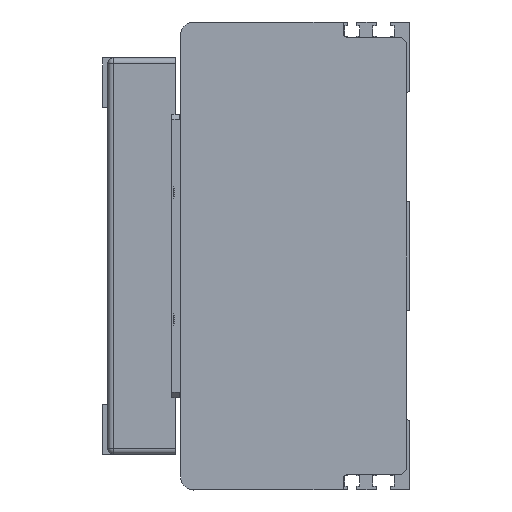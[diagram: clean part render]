
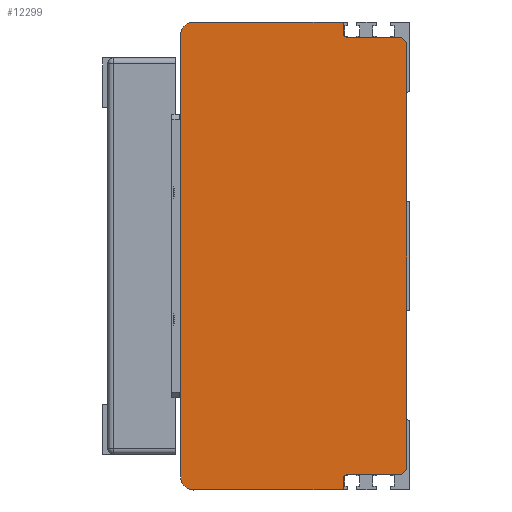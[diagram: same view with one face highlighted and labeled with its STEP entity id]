
A CAD part, left-side view. The second image highlights one B-rep face of the part: STEP entity #12299.
In plain terms, the highlighted planar face has unit normal (-1, 0, 0) as drawn and (0, 0, -1) by its records, which use the part's own axes.
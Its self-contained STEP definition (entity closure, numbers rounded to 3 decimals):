
#909=CIRCLE('',#13126,2.);
#910=CIRCLE('',#13127,5.);
#911=CIRCLE('',#13128,5.);
#912=CIRCLE('',#13129,2.);
#1204=FACE_OUTER_BOUND('',#1948,.T.);
#1948=EDGE_LOOP('',(#8328,#8329,#8330,#8331,#8332,#8333,#8334,#8335,#8336,
#8337,#8338,#8339,#8340,#8341));
#2829=LINE('',#17241,#4001);
#2830=LINE('',#17243,#4002);
#2831=LINE('',#17247,#4003);
#2832=LINE('',#17249,#4004);
#2833=LINE('',#17253,#4005);
#2834=LINE('',#17257,#4006);
#2835=LINE('',#17259,#4007);
#2836=LINE('',#17263,#4008);
#2837=LINE('',#17265,#4009);
#2838=LINE('',#17266,#4010);
#4001=VECTOR('',#14191,2.828);
#4002=VECTOR('',#14192,20.5);
#4003=VECTOR('',#14195,4.);
#4004=VECTOR('',#14196,57.5);
#4005=VECTOR('',#14199,170.);
#4006=VECTOR('',#14202,57.5);
#4007=VECTOR('',#14203,4.);
#4008=VECTOR('',#14206,20.5);
#4009=VECTOR('',#14207,2.828);
#4010=VECTOR('',#14208,164.);
#5193=VERTEX_POINT('',#17239);
#5194=VERTEX_POINT('',#17240);
#5195=VERTEX_POINT('',#17242);
#5196=VERTEX_POINT('',#17244);
#5197=VERTEX_POINT('',#17246);
#5198=VERTEX_POINT('',#17248);
#5199=VERTEX_POINT('',#17250);
#5200=VERTEX_POINT('',#17252);
#5201=VERTEX_POINT('',#17254);
#5202=VERTEX_POINT('',#17256);
#5203=VERTEX_POINT('',#17258);
#5204=VERTEX_POINT('',#17260);
#5205=VERTEX_POINT('',#17262);
#5206=VERTEX_POINT('',#17264);
#6450=EDGE_CURVE('',#5193,#5194,#2829,.T.);
#6451=EDGE_CURVE('',#5193,#5195,#2830,.T.);
#6452=EDGE_CURVE('',#5196,#5195,#909,.T.);
#6453=EDGE_CURVE('',#5196,#5197,#2831,.T.);
#6454=EDGE_CURVE('',#5197,#5198,#2832,.T.);
#6455=EDGE_CURVE('',#5198,#5199,#910,.T.);
#6456=EDGE_CURVE('',#5199,#5200,#2833,.T.);
#6457=EDGE_CURVE('',#5200,#5201,#911,.T.);
#6458=EDGE_CURVE('',#5201,#5202,#2834,.T.);
#6459=EDGE_CURVE('',#5202,#5203,#2835,.T.);
#6460=EDGE_CURVE('',#5204,#5203,#912,.T.);
#6461=EDGE_CURVE('',#5204,#5205,#2836,.T.);
#6462=EDGE_CURVE('',#5206,#5205,#2837,.T.);
#6463=EDGE_CURVE('',#5206,#5194,#2838,.T.);
#8328=ORIENTED_EDGE('',*,*,#6450,.F.);
#8329=ORIENTED_EDGE('',*,*,#6451,.T.);
#8330=ORIENTED_EDGE('',*,*,#6452,.F.);
#8331=ORIENTED_EDGE('',*,*,#6453,.T.);
#8332=ORIENTED_EDGE('',*,*,#6454,.T.);
#8333=ORIENTED_EDGE('',*,*,#6455,.T.);
#8334=ORIENTED_EDGE('',*,*,#6456,.T.);
#8335=ORIENTED_EDGE('',*,*,#6457,.T.);
#8336=ORIENTED_EDGE('',*,*,#6458,.T.);
#8337=ORIENTED_EDGE('',*,*,#6459,.T.);
#8338=ORIENTED_EDGE('',*,*,#6460,.F.);
#8339=ORIENTED_EDGE('',*,*,#6461,.T.);
#8340=ORIENTED_EDGE('',*,*,#6462,.F.);
#8341=ORIENTED_EDGE('',*,*,#6463,.T.);
#11866=PLANE('',#13125);
#12299=ADVANCED_FACE('',(#1204),#11866,.T.);
#13125=AXIS2_PLACEMENT_3D('',#17238,#14189,#14190);
#13126=AXIS2_PLACEMENT_3D('',#17245,#14193,#14194);
#13127=AXIS2_PLACEMENT_3D('',#17251,#14197,#14198);
#13128=AXIS2_PLACEMENT_3D('',#17255,#14200,#14201);
#13129=AXIS2_PLACEMENT_3D('',#17261,#14204,#14205);
#14189=DIRECTION('center_axis',(0.,0.,
-1.));
#14190=DIRECTION('ref_axis',(0.,-1.,0.));
#14191=DIRECTION('',(0.707,-0.707,0.));
#14192=DIRECTION('',(0.,1.,0.));
#14193=DIRECTION('center_axis',(0.,0.,
-1.));
#14194=DIRECTION('ref_axis',(0.707,0.707,0.));
#14195=DIRECTION('',(-1.,0.,0.));
#14196=DIRECTION('',(0.,1.,0.));
#14197=DIRECTION('center_axis',(0.,0.,
-1.));
#14198=DIRECTION('ref_axis',(-1.,0.,0.));
#14199=DIRECTION('',(1.,0.,0.));
#14200=DIRECTION('center_axis',(0.,0.,
-1.));
#14201=DIRECTION('ref_axis',(0.,1.,0.));
#14202=DIRECTION('',(0.,-1.,0.));
#14203=DIRECTION('',(-1.,0.,0.));
#14204=DIRECTION('center_axis',(0.,0.,
-1.));
#14205=DIRECTION('ref_axis',(-0.707,0.707,0.));
#14206=DIRECTION('',(0.,-1.,0.));
#14207=DIRECTION('',(0.707,0.707,0.));
#14208=DIRECTION('',(-1.,0.,0.));
#17238=CARTESIAN_POINT('Origin',(317.669,46.746,-406.483));
#17239=CARTESIAN_POINT('',(-91.,-80.,-406.483));
#17240=CARTESIAN_POINT('',(-89.,-82.,-406.483));
#17241=CARTESIAN_POINT('',(-20.019,-150.981,-406.483));
#17242=CARTESIAN_POINT('',(-91.,-59.5,-406.483));
#17243=CARTESIAN_POINT('',(-91.,-17.627,-406.483));
#17244=CARTESIAN_POINT('',(-93.,-57.5,-406.483));
#17245=CARTESIAN_POINT('Origin',(-93.,-59.5,-406.483));
#17246=CARTESIAN_POINT('',(-97.,-57.5,-406.483));
#17247=CARTESIAN_POINT('',(-91.,-57.5,-406.483));
#17248=CARTESIAN_POINT('',(-97.,0.,-406.483));
#17249=CARTESIAN_POINT('',(-97.,-57.5,-406.483));
#17250=CARTESIAN_POINT('',(-92.,5.,-406.483));
#17251=CARTESIAN_POINT('Origin',(-92.,0.,
-406.483));
#17252=CARTESIAN_POINT('',(78.,5.,-406.483));
#17253=CARTESIAN_POINT('',(-92.,5.,-406.483));
#17254=CARTESIAN_POINT('',(83.,0.,-406.483));
#17255=CARTESIAN_POINT('Origin',(78.,0.,
-406.483));
#17256=CARTESIAN_POINT('',(83.,-57.5,-406.483));
#17257=CARTESIAN_POINT('',(83.,0.,-406.483));
#17258=CARTESIAN_POINT('',(79.,-57.5,-406.483));
#17259=CARTESIAN_POINT('',(83.,-57.5,-406.483));
#17260=CARTESIAN_POINT('',(77.,-59.5,-406.483));
#17261=CARTESIAN_POINT('Origin',(79.,-59.5,-406.483));
#17262=CARTESIAN_POINT('',(77.,-80.,-406.483));
#17263=CARTESIAN_POINT('',(77.,-57.5,-406.483));
#17264=CARTESIAN_POINT('',(75.,-82.,-406.483));
#17265=CARTESIAN_POINT('',(168.354,11.354,-406.483));
#17266=CARTESIAN_POINT('',(81.,-82.,-406.483));
